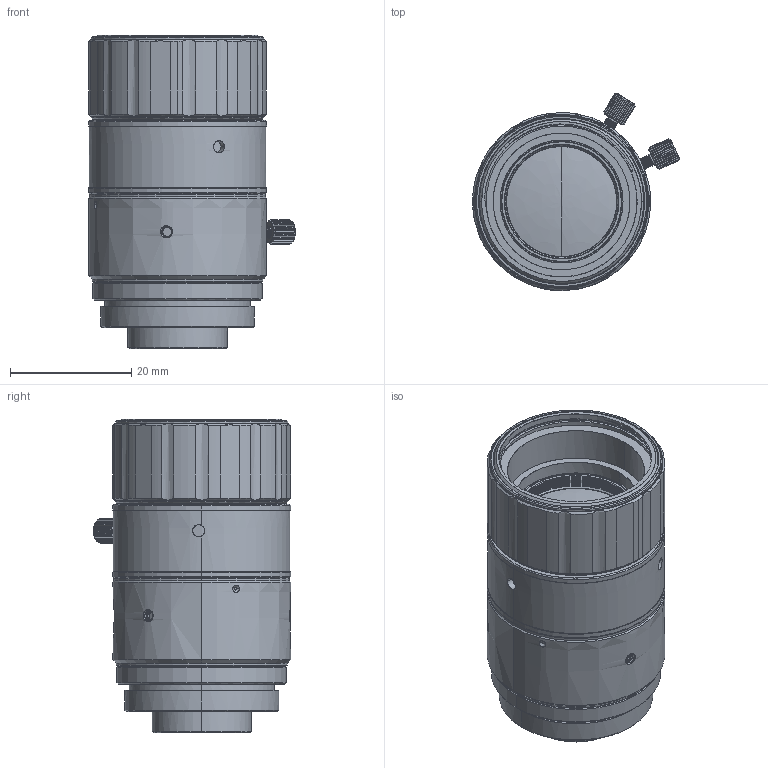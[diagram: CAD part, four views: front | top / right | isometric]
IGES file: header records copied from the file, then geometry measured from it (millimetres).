
Start section: SolidWorks IGES file using analytic representation for surfaces
Global section: file name: C:\Users\dingguolei\Desktop\FA镜头3D图-去掉了镜头上面的型号和LOGO（2025.05.14）\MFA117-S50.IGS; native system: SolidWorks 2017; preprocessor: SolidWorks 2017; author: dingguolei; date: 250515.175447; units: millimetre
Bounding box: 34.16 x 32.61 x 51.85 mm (x, y, z)
Surface area: 15605.7 mm2 (no closed solid volume)
Topology: 0 solids, 0 shells, 979 faces, 11301 edges, 11287 vertices
Faces by surface type: revolution 573, bspline 406
